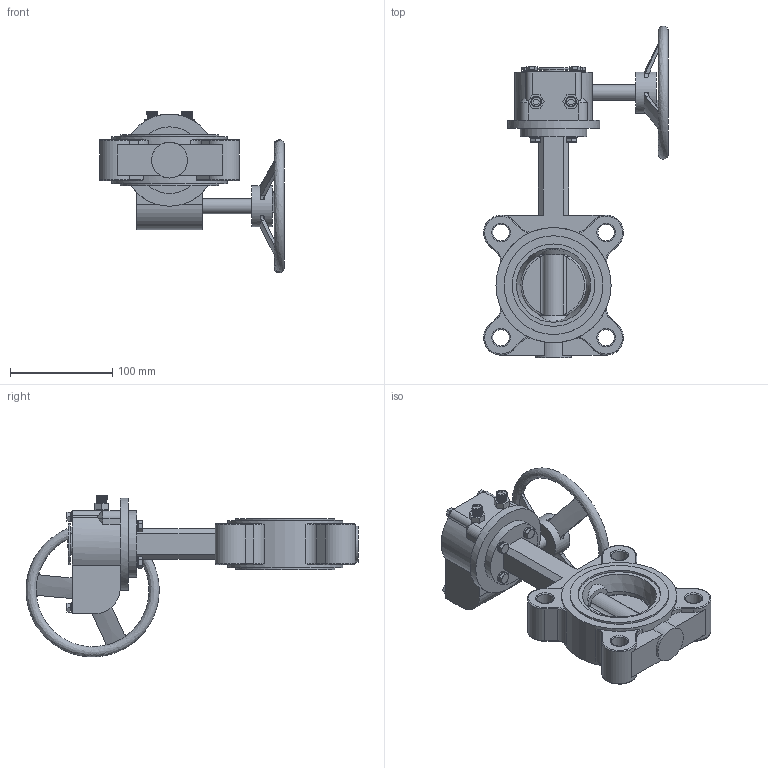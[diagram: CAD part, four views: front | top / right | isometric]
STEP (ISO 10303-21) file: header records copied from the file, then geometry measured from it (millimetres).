
FILE_DESCRIPTION (( 'STEP AP214' ), '1' );
FILE_NAME ('恦謫 等標評概Fig3240-65-16.STEP', '2026-03-20T05:59:33', ( '' ), ( '' ), 'SwSTEP 2.0', 'SolidWorks 2024', '' );
FILE_SCHEMA (( 'AUTOMOTIVE_DESIGN' ));
Length unit declared in the file: millimetre
Products named in the file (1): 涡轮 单夹蝶阀Fig3240-65-16
Bounding box: 180.2 x 323.99 x 157.71 mm (x, y, z)
Surface area: 149102.9 mm2 (no closed solid volume)
Topology: 0 solids, 1 shells, 601 faces, 1539 edges, 997 vertices
Faces by surface type: plane 298, bspline 157, cylinder 104, cone 42
Full cylindrical faces by diameter (mm): 6 x8, 6.68 x4, 7 x4, 10 x6, 10.68 x4, 15 x1, 16 x4, 20 x1, 35 x1, 40 x2, 50 x1, 65 x1, 80.4 x2, 90 x1, 96.4 x2, 112.4 x1
Entity records: 45510 total; most frequent: CARTESIAN_POINT 25956, ORIENTED_EDGE 2900, DIRECTION 2131, EDGE_CURVE 1461, VERTEX_POINT 974, EDGE_LOOP 739, VECTOR 721, LINE 721
